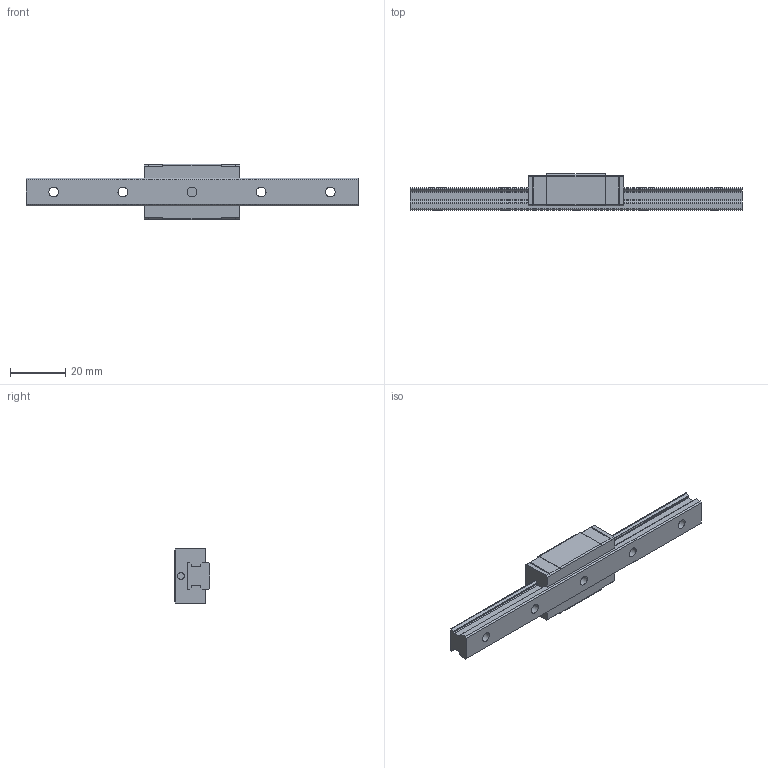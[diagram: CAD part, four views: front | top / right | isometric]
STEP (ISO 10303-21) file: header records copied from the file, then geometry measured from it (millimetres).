
FILE_DESCRIPTION(/* description */ ('STEP AP203'),/* implementation_level */ '2;1');
FILE_NAME(/* name */ 'HRG10RM1UU-120LHM_G10_0_Without_grease_nipple_42-75_0_0_01',/* time_stamp */ '2024-05-23T11:23:07+02:00',/* author */ ('License CC BY-ND 4.0'),/* organization */ ('CADENAS'),/* preprocessor_version */ 'ST-DEVELOPER v19.3',/* originating_system */ 'PARTsolutions',/* authorisation */ ' ');
FILE_SCHEMA (('CONFIG_CONTROL_DESIGN'));
Length unit declared in the file: millimetre
Products named in the file (4): HRG10RM1UU-120LHM_G10_0_Without_grease_nipple_42-75_0_0_01; HRG10RM112010 Rail; HRG10RMUU 1Slider; HSR-YR-_grease_nipple_joint
Assembly tree (3 placements, depth 2):
  HRG10RM1UU-120LHM_G10_0_Without_grease_nipple_42-75_0_0_01
    HRG10RM112010 Rail
    HRG10RMUU 1Slider
    HSR-YR-_grease_nipple_joint
Bounding box: 120 x 13 x 20 mm (x, y, z)
Volume: 13358.9 mm3; surface area: 8353.3 mm2
Topology: 2 solids, 2 shells, 143 faces, 392 edges, 261 vertices
Faces by surface type: plane 86, cylinder 49, cone 8
Full cylindrical faces by diameter (mm): 1.567 x4, 2.5 x2, 3.5 x5, 6 x5
Entity records: 4478 total; most frequent: CARTESIAN_POINT 764, DIRECTION 756, ORIENTED_EDGE 720, EDGE_CURVE 360, LINE 258, VECTOR 258, VERTEX_POINT 256, AXIS2_PLACEMENT_3D 249
